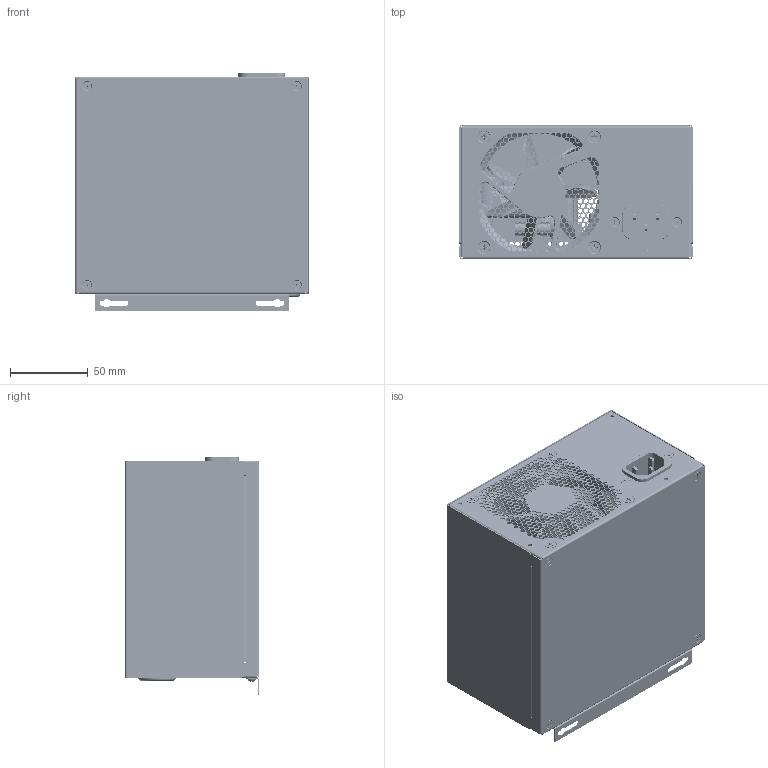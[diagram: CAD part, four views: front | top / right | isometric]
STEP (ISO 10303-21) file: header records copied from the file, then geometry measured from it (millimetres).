
FILE_DESCRIPTION(/* description */ ('SolidWorks IGES file using analytic representation for surfaces '),/* implementation_level */ '2;1');
FILE_NAME(/* name */ 'C:\Users\IS.Basalaev\Downloads\ATX Power Supply.stp',/* time_stamp */ '2022-12-07T09:33:07+03:00',/* author */ ('is.basalaev'),/* organization */ (''),/* preprocessor_version */ 'ST-DEVELOPER v18.1',/* originating_system */ 'Autodesk Inventor 2022',/* authorisation */ '');
FILE_SCHEMA (('AUTOMOTIVE_DESIGN { 1 0 10303 214 3 1 1 }'));
Products named in the file (17): ATX Power Supply v1.0; Box v1.0 - ATX Power Supply; Cover v1.0 - ATX Power Supply; IEC Plug; Casq; Fan; PCB; Винт А2.M3-6gx6.48.08Х1
8Н10 ГОСТ 17475-80; Стойка Н M3x10-58.12Х1
8Н10Т ГОСТ 20865-81; Винт А2.M3-6gx4.48.016
 ГОСТ 17473-80; Винт А2.M3-6gx8.48.08Х1
8Н10 ГОСТ 17475-80; Гайка M3-6H.5.016 ГОСТ 
5927-70; Винт А2.M4-6gx10.48.08
Х18Н10 ГОСТ 17475-80; Гайка M4-6H.5.016 ГОСТ 
5927-70; Винт А2.M3-6gx4.48.08Х1
8Н10 ГОСТ 17475-80; ПланОчка для 
ATX Power Supply; Винт А2.M3-6gx3.48.08Х1
8Н10 ГОСТ 17473-80
Assembly tree (37 placements, depth 2):
  ATX Power Supply v1.0
    Box v1.0 - ATX Power Supply
    Cover v1.0 - ATX Power Supply
    IEC Plug
    Casq
    Fan
    PCB
    Винт А2.M3-6gx6.48.08Х1
8Н10 ГОСТ 17475-80  x4
    Стойка Н M3x10-58.12Х1
8Н10Т ГОСТ 20865-81  x4
    Винт А2.M3-6gx4.48.016
 ГОСТ 17473-80  x4
    Винт А2.M3-6gx8.48.08Х1
8Н10 ГОСТ 17475-80  x2
    Гайка M3-6H.5.016 ГОСТ 
5927-70  x2
    Винт А2.M4-6gx10.48.08
Х18Н10 ГОСТ 17475-80  x4
    Гайка M4-6H.5.016 ГОСТ 
5927-70  x4
    Винт А2.M3-6gx4.48.08Х1
8Н10 ГОСТ 17475-80  x4
    ПланОчка для 
ATX Power Supply
    Винт А2.M3-6gx3.48.08Х1
8Н10 ГОСТ 17473-80  x2
Bounding box: 150 x 86 x 153.3 mm (x, y, z)
Volume: 271647.7 mm3; surface area: 316390.1 mm2
Topology: 37 solids, 37 shells, 13891 faces, 40993 edges, 27201 vertices
Faces by surface type: plane 6902, cylinder 6500, cone 298, torus 163, bspline 22, sphere 6
Full cylindrical faces by diameter (mm): 0.762 x4, 0.8 x3, 1.5 x3, 2.286 x4, 2.459 x8, 2.54 x32, 2.642 x4, 3 x16, 3.2 x4, 3.242 x4, 3.3 x2, 3.404 x4, 4 x4, 4.762 x8, 5.08 x7, 5.5 x6, 5.6 x10, 6.731 x6, 6.858 x1, 7.4 x4, 7.938 x1, 8.255 x2, 10.16 x3, 12.7 x3, 16 x1, 18.796 x1, 20 x2, 20.637 x1, 22.225 x4, 30.988 x1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
Entity records: 458203 total; most frequent: CARTESIAN_POINT 82016, ORIENTED_EDGE 79406, DIRECTION 79392, EDGE_CURVE 39703, AXIS2_PLACEMENT_3D 26611, VERTEX_POINT 26382, LINE 26170, VECTOR 26170
